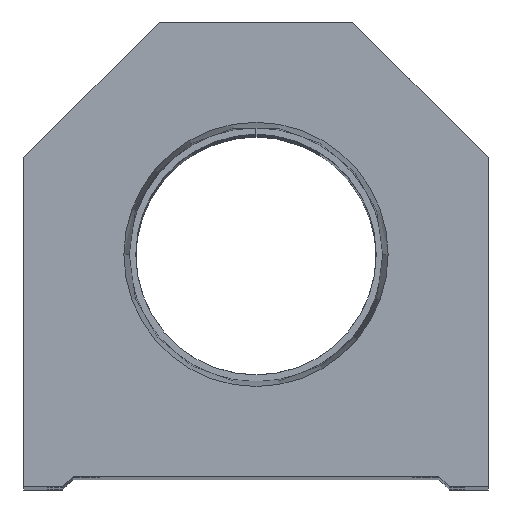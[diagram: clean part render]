
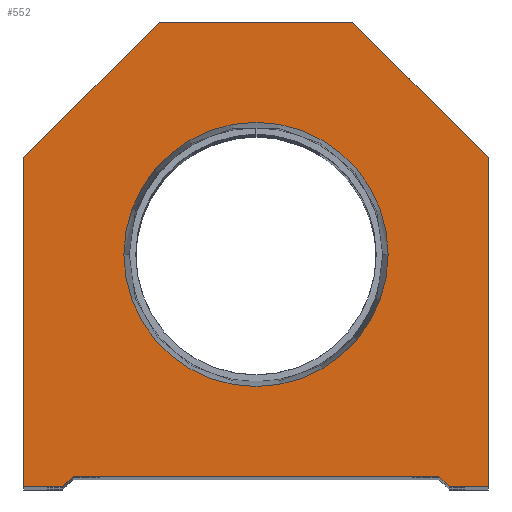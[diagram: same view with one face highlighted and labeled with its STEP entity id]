
A CAD part, top view. The second image highlights one B-rep face of the part: STEP entity #552.
In plain terms, the highlighted planar face has unit normal (0, 0, 1).
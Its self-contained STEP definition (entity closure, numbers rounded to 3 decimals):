
#232 = CARTESIAN_POINT ( 'NONE',  ( 9.25, 9.25, 0. ) ) ;
#374 = VERTEX_POINT ( 'NONE', #5720 ) ;
#427 = EDGE_CURVE ( 'NONE', #2699, #8144, #8053, .T. ) ;
#473 = VECTOR ( 'NONE', #12955, 1000. ) ;
#552 = ADVANCED_FACE ( 'NONE', ( #14830, #13669 ), #13517, .T. ) ;
#558 = LINE ( 'NONE', #7773, #14826 ) ;
#606 = CARTESIAN_POINT ( 'NONE',  ( 12.647, 22.25, 0. ) ) ;
#608 = EDGE_CURVE ( 'NONE', #14132, #989, #2750, .T. ) ;
#653 = LINE ( 'NONE', #11253, #11563 ) ;
#711 = CARTESIAN_POINT ( 'NONE',  ( -17.5, 0., 0. ) ) ;
#771 = EDGE_CURVE ( 'NONE', #14691, #2699, #4087, .T. ) ;
#824 = CARTESIAN_POINT ( 'NONE',  ( -22.25, 0., 0. ) ) ;
#989 = VERTEX_POINT ( 'NONE', #5591 ) ;
#1194 = EDGE_CURVE ( 'NONE', #3221, #11863, #12758, .T. ) ;
#1589 = CARTESIAN_POINT ( 'NONE',  ( -22.25, 31.5, 0. ) ) ;
#1716 = DIRECTION ( 'NONE',  ( -0.707, 0.707, 0. ) ) ;
#1853 = LINE ( 'NONE', #711, #3312 ) ;
#2027 = DIRECTION ( 'NONE',  ( 1., 0., 0. ) ) ;
#2134 = VECTOR ( 'NONE', #5394, 1000. ) ;
#2257 = CARTESIAN_POINT ( 'NONE',  ( -18.5, 0., 0. ) ) ;
#2330 = CARTESIAN_POINT ( 'NONE',  ( 22.25, 0., 0. ) ) ;
#2368 = CARTESIAN_POINT ( 'NONE',  ( 18.5, 0., 0. ) ) ;
#2369 = EDGE_CURVE ( 'NONE', #374, #14132, #1853, .T. ) ;
#2405 = DIRECTION ( 'NONE',  ( 0., 1., 0. ) ) ;
#2542 = ORIENTED_EDGE ( 'NONE', *, *, #6893, .T. ) ;
#2699 = VERTEX_POINT ( 'NONE', #3366 ) ;
#2750 = LINE ( 'NONE', #9806, #473 ) ;
#2756 = VERTEX_POINT ( 'NONE', #4645 ) ;
#2990 = CARTESIAN_POINT ( 'NONE',  ( 0., 0., 0. ) ) ;
#3131 = DIRECTION ( 'NONE',  ( 0., 0., 1. ) ) ;
#3155 = EDGE_CURVE ( 'NONE', #2756, #11246, #14151, .T. ) ;
#3180 = AXIS2_PLACEMENT_3D ( 'NONE', #12349, #9918, #14546 ) ;
#3221 = VERTEX_POINT ( 'NONE', #606 ) ;
#3267 = DIRECTION ( 'NONE',  ( 1., 0., 0. ) ) ;
#3273 = LINE ( 'NONE', #824, #2134 ) ;
#3312 = VECTOR ( 'NONE', #14797, 1000. ) ;
#3366 = CARTESIAN_POINT ( 'NONE',  ( -9.25, 44.5, 0. ) ) ;
#3597 = VECTOR ( 'NONE', #1716, 1000. ) ;
#3806 = ORIENTED_EDGE ( 'NONE', *, *, #3934, .T. ) ;
#3934 = EDGE_CURVE ( 'NONE', #8144, #374, #3273, .T. ) ;
#3937 = LINE ( 'NONE', #4831, #3597 ) ;
#4087 = LINE ( 'NONE', #4160, #9829 ) ;
#4093 = CARTESIAN_POINT ( 'NONE',  ( 0., 22.25, 0. ) ) ;
#4160 = CARTESIAN_POINT ( 'NONE',  ( 9.25, 44.5, 0. ) ) ;
#4253 = DIRECTION ( 'NONE',  ( 1., 0., 0. ) ) ;
#4645 = CARTESIAN_POINT ( 'NONE',  ( 17.5, 1., 0. ) ) ;
#4722 = CARTESIAN_POINT ( 'NONE',  ( -22.25, 31.5, 0. ) ) ;
#4767 = VECTOR ( 'NONE', #9154, 1000. ) ;
#4831 = CARTESIAN_POINT ( 'NONE',  ( 22.25, 31.5, 0. ) ) ;
#4857 = CARTESIAN_POINT ( 'NONE',  ( 22.25, 0., 0. ) ) ;
#5158 = VERTEX_POINT ( 'NONE', #11348 ) ;
#5394 = DIRECTION ( 'NONE',  ( 0., -1., 0. ) ) ;
#5429 = EDGE_CURVE ( 'NONE', #11863, #3221, #9705, .T. ) ;
#5591 = CARTESIAN_POINT ( 'NONE',  ( -17.5, 1., 0. ) ) ;
#5706 = ORIENTED_EDGE ( 'NONE', *, *, #771, .T. ) ;
#5720 = CARTESIAN_POINT ( 'NONE',  ( -22.25, 0., 0. ) ) ;
#5914 = EDGE_CURVE ( 'NONE', #11246, #10631, #558, .T. ) ;
#6061 = ORIENTED_EDGE ( 'NONE', *, *, #14453, .T. ) ;
#6400 = DIRECTION ( 'NONE',  ( -1., 0., 0. ) ) ;
#6893 = EDGE_CURVE ( 'NONE', #10631, #5158, #12624, .T. ) ;
#7304 = EDGE_LOOP ( 'NONE', ( #10402, #9653 ) ) ;
#7773 = CARTESIAN_POINT ( 'NONE',  ( 17.5, 0., 0. ) ) ;
#7870 = DIRECTION ( 'NONE',  ( 1., 0., 0. ) ) ;
#8053 = LINE ( 'NONE', #4722, #13994 ) ;
#8140 = ORIENTED_EDGE ( 'NONE', *, *, #2369, .T. ) ;
#8144 = VERTEX_POINT ( 'NONE', #1589 ) ;
#8420 = ORIENTED_EDGE ( 'NONE', *, *, #608, .T. ) ;
#8447 = VECTOR ( 'NONE', #2405, 1000. ) ;
#8616 = CARTESIAN_POINT ( 'NONE',  ( 9.25, 44.5, 0. ) ) ;
#9025 = EDGE_LOOP ( 'NONE', ( #8140, #8420, #6061, #9129, #14662, #2542, #9039, #5706, #11151, #3806 ) ) ;
#9039 = ORIENTED_EDGE ( 'NONE', *, *, #9929, .T. ) ;
#9129 = ORIENTED_EDGE ( 'NONE', *, *, #3155, .T. ) ;
#9154 = DIRECTION ( 'NONE',  ( 0.707, -0.707, 0. ) ) ;
#9653 = ORIENTED_EDGE ( 'NONE', *, *, #5429, .F. ) ;
#9705 = CIRCLE ( 'NONE', #10691, 12.647 ) ;
#9806 = CARTESIAN_POINT ( 'NONE',  ( -9.25, 9.25, 0. ) ) ;
#9829 = VECTOR ( 'NONE', #6400, 1000. ) ;
#9918 = DIRECTION ( 'NONE',  ( 0., 0., 1. ) ) ;
#9929 = EDGE_CURVE ( 'NONE', #5158, #14691, #3937, .T. ) ;
#10102 = DIRECTION ( 'NONE',  ( 0., 0., 1. ) ) ;
#10367 = DIRECTION ( 'NONE',  ( -0.707, -0.707, 0. ) ) ;
#10402 = ORIENTED_EDGE ( 'NONE', *, *, #1194, .F. ) ;
#10631 = VERTEX_POINT ( 'NONE', #4857 ) ;
#10691 = AXIS2_PLACEMENT_3D ( 'NONE', #4093, #10102, #7870 ) ;
#11151 = ORIENTED_EDGE ( 'NONE', *, *, #427, .T. ) ;
#11246 = VERTEX_POINT ( 'NONE', #2368 ) ;
#11253 = CARTESIAN_POINT ( 'NONE',  ( -17.5, 1., 0. ) ) ;
#11348 = CARTESIAN_POINT ( 'NONE',  ( 22.25, 31.5, 0. ) ) ;
#11563 = VECTOR ( 'NONE', #3267, 1000. ) ;
#11694 = CARTESIAN_POINT ( 'NONE',  ( -12.647, 22.25, 0. ) ) ;
#11863 = VERTEX_POINT ( 'NONE', #11694 ) ;
#12349 = CARTESIAN_POINT ( 'NONE',  ( 0., 22.25, 0. ) ) ;
#12624 = LINE ( 'NONE', #2330, #8447 ) ;
#12758 = CIRCLE ( 'NONE', #3180, 12.647 ) ;
#12955 = DIRECTION ( 'NONE',  ( 0.707, 0.707, 0. ) ) ;
#13517 = PLANE ( 'NONE',  #13747 ) ;
#13669 = FACE_OUTER_BOUND ( 'NONE', #9025, .T. ) ;
#13747 = AXIS2_PLACEMENT_3D ( 'NONE', #2990, #3131, #4253 ) ;
#13994 = VECTOR ( 'NONE', #10367, 1000. ) ;
#14132 = VERTEX_POINT ( 'NONE', #2257 ) ;
#14151 = LINE ( 'NONE', #232, #4767 ) ;
#14453 = EDGE_CURVE ( 'NONE', #989, #2756, #653, .T. ) ;
#14546 = DIRECTION ( 'NONE',  ( 1., 0., 0. ) ) ;
#14662 = ORIENTED_EDGE ( 'NONE', *, *, #5914, .T. ) ;
#14691 = VERTEX_POINT ( 'NONE', #8616 ) ;
#14797 = DIRECTION ( 'NONE',  ( 1., 0., 0. ) ) ;
#14826 = VECTOR ( 'NONE', #2027, 1000. ) ;
#14830 = FACE_BOUND ( 'NONE', #7304, .T. ) ;
